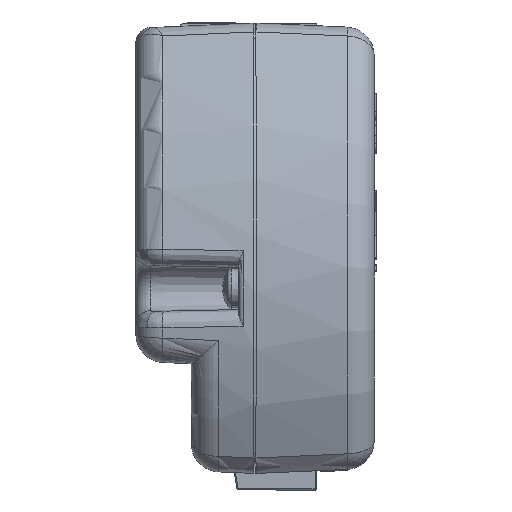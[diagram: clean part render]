
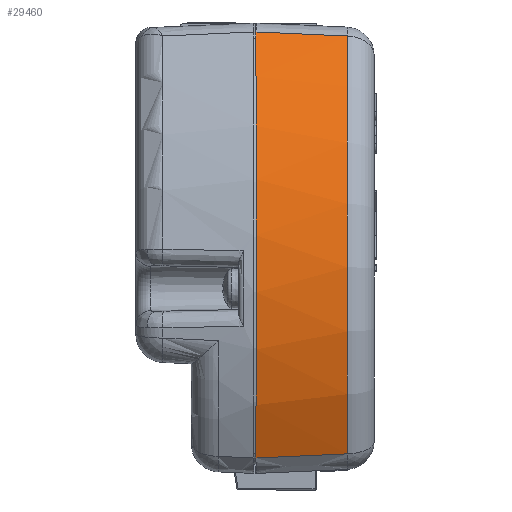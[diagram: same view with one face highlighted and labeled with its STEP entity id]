
A CAD part, left-side view. The second image highlights one B-rep face of the part: STEP entity #29460.
In plain terms, the highlighted conical face has half-angle 2.5 degrees and reference radius 37 mm.
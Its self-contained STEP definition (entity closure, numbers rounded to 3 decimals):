
#498=CONICAL_SURFACE('',#31305,37.,0.044);
#803=B_SPLINE_CURVE_WITH_KNOTS('',3,(#45715,#45716,#45717,#45718),
 .UNSPECIFIED.,.F.,.F.,(4,4),(-1.182,-0.279),
 .UNSPECIFIED.);
#804=B_SPLINE_CURVE_WITH_KNOTS('',3,(#45720,#45721,#45722,#45723),
 .UNSPECIFIED.,.F.,.F.,(4,4),(0.28,1.184),
 .UNSPECIFIED.);
#1534=CIRCLE('',#31220,36.606);
#1548=CIRCLE('',#31262,37.);
#3746=FACE_OUTER_BOUND('',#5402,.T.);
#5402=EDGE_LOOP('',(#23158,#23159,#23160,#23161));
#13853=VERTEX_POINT('',#45242);
#13854=VERTEX_POINT('',#45243);
#13874=VERTEX_POINT('',#45392);
#13875=VERTEX_POINT('',#45403);
#17161=EDGE_CURVE('',#13853,#13854,#1534,.T.);
#17213=EDGE_CURVE('',#13875,#13874,#1548,.T.);
#17263=EDGE_CURVE('',#13854,#13874,#803,.T.);
#17264=EDGE_CURVE('',#13875,#13853,#804,.T.);
#23158=ORIENTED_EDGE('',*,*,#17161,.F.);
#23159=ORIENTED_EDGE('',*,*,#17264,.F.);
#23160=ORIENTED_EDGE('',*,*,#17213,.T.);
#23161=ORIENTED_EDGE('',*,*,#17263,.F.);
#29460=ADVANCED_FACE('',(#3746),#498,.T.);
#31220=AXIS2_PLACEMENT_3D('',#45244,#35260,#35261);
#31262=AXIS2_PLACEMENT_3D('',#45404,#35371,#35372);
#31305=AXIS2_PLACEMENT_3D('',#45719,#35475,#35476);
#35260=DIRECTION('center_axis',(0.,0.,
1.));
#35261=DIRECTION('ref_axis',(0.99,-0.144,0.));
#35371=DIRECTION('center_axis',(0.,0.,1.));
#35372=DIRECTION('ref_axis',(0.704,-0.71,0.));
#35475=DIRECTION('center_axis',(0.,0.,-1.));
#35476=DIRECTION('ref_axis',(0.704,-0.71,0.));
#45242=CARTESIAN_POINT('',(13.937,-25.002,9.022));
#45243=CARTESIAN_POINT('',(19.94,16.374,9.022));
#45244=CARTESIAN_POINT('Origin',(-12.8,0.,9.022));
#45392=CARTESIAN_POINT('',(20.173,16.786,0.));
#45403=CARTESIAN_POINT('',(14.098,-25.406,0.));
#45404=CARTESIAN_POINT('Origin',(-12.8,0.,0.));
#45715=CARTESIAN_POINT('Ctrl Pts',(19.94,16.374,9.022));
#45716=CARTESIAN_POINT('Ctrl Pts',(20.018,16.511,6.015));
#45717=CARTESIAN_POINT('Ctrl Pts',(20.096,16.649,3.007));
#45718=CARTESIAN_POINT('Ctrl Pts',(20.173,16.786,0.));
#45719=CARTESIAN_POINT('Origin',(-12.8,0.,0.));
#45720=CARTESIAN_POINT('Ctrl Pts',(14.098,-25.406,0.));
#45721=CARTESIAN_POINT('Ctrl Pts',(14.045,-25.272,3.007));
#45722=CARTESIAN_POINT('Ctrl Pts',(13.991,-25.137,6.015));
#45723=CARTESIAN_POINT('Ctrl Pts',(13.937,-25.002,9.022));
